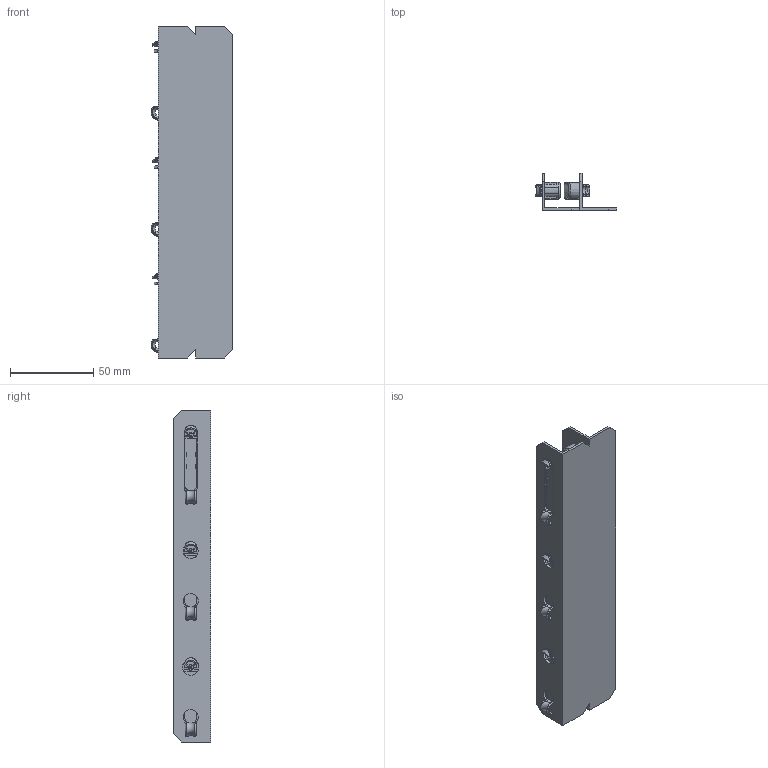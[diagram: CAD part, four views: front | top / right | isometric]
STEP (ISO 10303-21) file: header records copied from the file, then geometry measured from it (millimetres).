
FILE_DESCRIPTION(/* description */ (''),/* implementation_level */ '2;1');
FILE_NAME(/* name */ 'C:\Vault_local\Designs\Stock\3D pour clients\préparations\capteur fenetre 2011\2D3D 583 C mounting examples.stp',/* time_stamp */ '2021-04-07T13:55:56+02:00',/* author */ ('fbros'),/* organization */ (''),/* preprocessor_version */ 'ST-DEVELOPER v17',/* originating_system */ 'Autodesk Inventor 2018',/* authorisation */ '');
FILE_SCHEMA (('AUTOMOTIVE_DESIGN { 1 0 10303 214 3 1 1 }'));
Products named in the file (1): 2D3D 583 C mounting examples
Bounding box: 49.33 x 22.5 x 200 mm (x, y, z)
Volume: 40657.5 mm3; surface area: 48299.6 mm2
Topology: 1 solids, 30 shells, 2478 faces, 6973 edges, 4552 vertices
Faces by surface type: plane 1862, cylinder 360, cone 135, bspline 88, torus 18, sphere 15
Full cylindrical faces by diameter (mm): 5 x3, 6 x6, 9.8 x2
Entity records: 97231 total; most frequent: CARTESIAN_POINT 30688, ORIENTED_EDGE 13934, DIRECTION 12485, EDGE_CURVE 6967, LINE 4951, VECTOR 4951, VERTEX_POINT 4552, AXIS2_PLACEMENT_3D 3767
